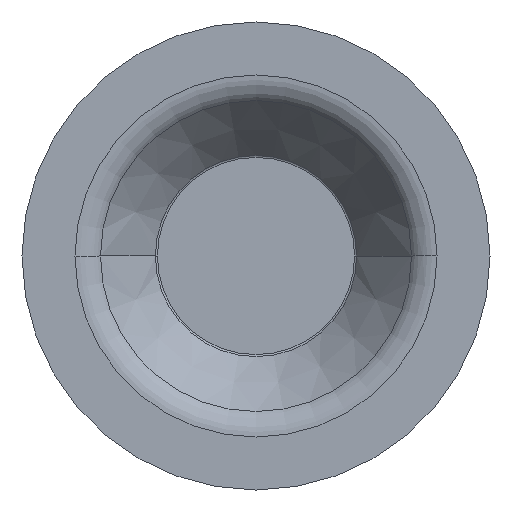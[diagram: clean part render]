
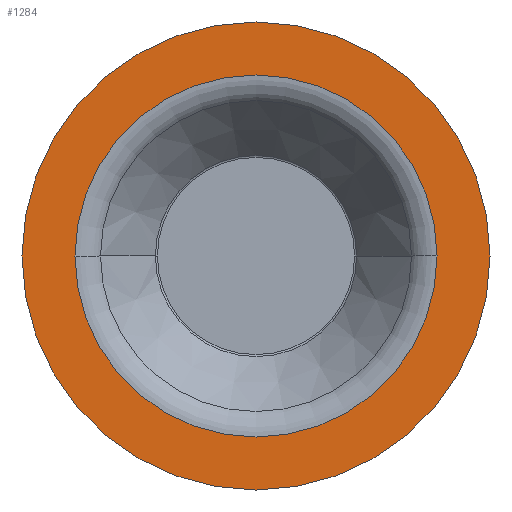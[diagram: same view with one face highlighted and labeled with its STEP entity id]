
A CAD part, front view. The second image highlights one B-rep face of the part: STEP entity #1284.
In plain terms, the highlighted planar face has unit normal (0, -1, 0).
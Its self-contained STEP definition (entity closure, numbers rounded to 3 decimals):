
#141 = AXIS2_PLACEMENT_3D ( 'NONE', #1394, #1002, #385 ) ;
#189 = DIRECTION ( 'NONE',  ( -1., 0., 0. ) ) ;
#234 = EDGE_CURVE ( 'NONE', #822, #1171, #1615, .T. ) ;
#303 = CARTESIAN_POINT ( 'NONE',  ( 47.5, -22., 0. ) ) ;
#318 = PLANE ( 'NONE',  #1595 ) ;
#369 = CARTESIAN_POINT ( 'NONE',  ( 0., -22., 0. ) ) ;
#385 = DIRECTION ( 'NONE',  ( 1., 0., 0. ) ) ;
#433 = FACE_OUTER_BOUND ( 'NONE', #964, .T. ) ;
#437 = CARTESIAN_POINT ( 'NONE',  ( 0., -22., 0. ) ) ;
#450 = ORIENTED_EDGE ( 'NONE', *, *, #1101, .T. ) ;
#478 = CARTESIAN_POINT ( 'NONE',  ( 47.5, -22., 0. ) ) ;
#499 = DIRECTION ( 'NONE',  ( -1., 0., 0. ) ) ;
#500 = DIRECTION ( 'NONE',  ( 1., 0., 0. ) ) ;
#544 = EDGE_CURVE ( 'NONE', #587, #1149, #1352, .T. ) ;
#587 = VERTEX_POINT ( 'NONE', #478 ) ;
#594 = EDGE_LOOP ( 'NONE', ( #900, #949 ) ) ;
#682 = CARTESIAN_POINT ( 'NONE',  ( -36.744, -22., 0. ) ) ;
#797 = DIRECTION ( 'NONE',  ( 0., -1., 0. ) ) ;
#822 = VERTEX_POINT ( 'NONE', #835 ) ;
#835 = CARTESIAN_POINT ( 'NONE',  ( 36.744, -22., 0. ) ) ;
#870 = EDGE_CURVE ( 'NONE', #1171, #822, #1308, .T. ) ;
#900 = ORIENTED_EDGE ( 'NONE', *, *, #870, .F. ) ;
#930 = DIRECTION ( 'NONE',  ( 1., 0., 0. ) ) ;
#949 = ORIENTED_EDGE ( 'NONE', *, *, #234, .F. ) ;
#957 = ORIENTED_EDGE ( 'NONE', *, *, #544, .T. ) ;
#964 = EDGE_LOOP ( 'NONE', ( #957, #450 ) ) ;
#982 = CARTESIAN_POINT ( 'NONE',  ( 0., -22., 0. ) ) ;
#1002 = DIRECTION ( 'NONE',  ( 0., -1., 0. ) ) ;
#1061 = CARTESIAN_POINT ( 'NONE',  ( -47.5, -22., 0. ) ) ;
#1101 = EDGE_CURVE ( 'NONE', #1149, #587, #1260, .T. ) ;
#1120 = DIRECTION ( 'NONE',  ( 0., -1., 0. ) ) ;
#1149 = VERTEX_POINT ( 'NONE', #1061 ) ;
#1171 = VERTEX_POINT ( 'NONE', #682 ) ;
#1193 = DIRECTION ( 'NONE',  ( 0., -1., 0. ) ) ;
#1218 = AXIS2_PLACEMENT_3D ( 'NONE', #437, #1193, #189 ) ;
#1260 = CIRCLE ( 'NONE', #141, 47.5 ) ;
#1284 = ADVANCED_FACE ( 'NONE', ( #1447, #433 ), #318, .T. ) ;
#1308 = CIRCLE ( 'NONE', #1218, 36.744 ) ;
#1322 = AXIS2_PLACEMENT_3D ( 'NONE', #982, #1120, #499 ) ;
#1352 = CIRCLE ( 'NONE', #1566, 47.5 ) ;
#1394 = CARTESIAN_POINT ( 'NONE',  ( 0., -22., 0. ) ) ;
#1402 = DIRECTION ( 'NONE',  ( 0., -1., 0. ) ) ;
#1447 = FACE_BOUND ( 'NONE', #594, .T. ) ;
#1566 = AXIS2_PLACEMENT_3D ( 'NONE', #369, #1402, #500 ) ;
#1595 = AXIS2_PLACEMENT_3D ( 'NONE', #303, #797, #930 ) ;
#1615 = CIRCLE ( 'NONE', #1322, 36.744 ) ;
